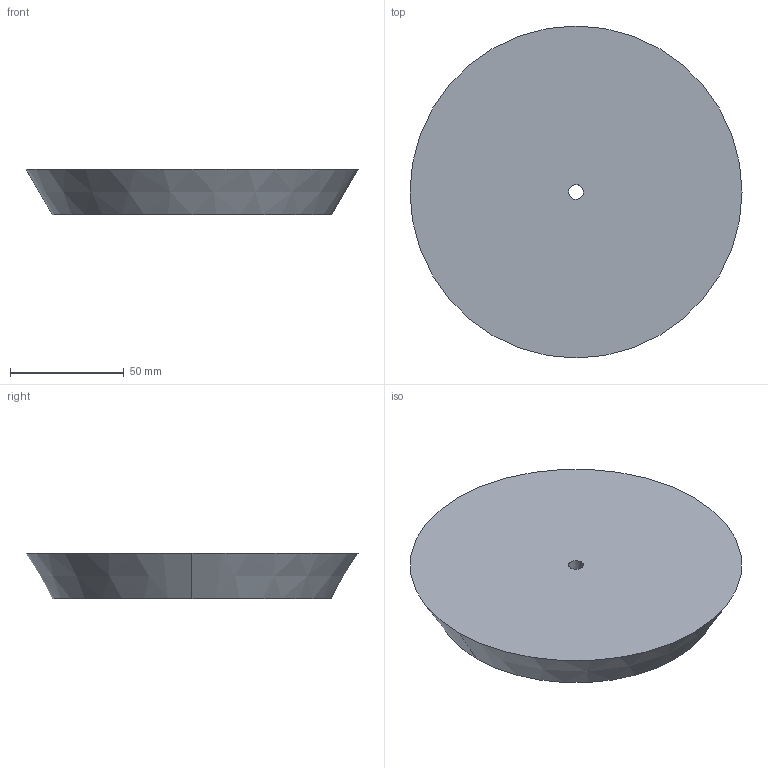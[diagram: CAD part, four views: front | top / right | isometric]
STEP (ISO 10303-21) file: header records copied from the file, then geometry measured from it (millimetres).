
FILE_DESCRIPTION(('CATIA V5 STEP Exchange'),'2;1');
FILE_NAME('C:\Users\andres.garcia\OneDrive - IQS\ASIGNATURAS\DAO\Controles\2223\c0\c1-LORENTE_David-tapon.stp','2023-02-03T08:22:05+00:00',('none'),('none'),'CATIA Version 5-6 Release 2013 SP6','CATIA V5 STEP AP203','none');
FILE_SCHEMA(('CONFIG_CONTROL_DESIGN'));
Length unit declared in the file: millimetre
Products named in the file (1): c1-LORENTE_David-tapon
Bounding box: 146 x 146 x 20 mm (x, y, z)
Volume: 283996.9 mm3; surface area: 38702.6 mm2
Topology: 1 solids, 1 shells, 6 faces, 12 edges, 8 vertices
Faces by surface type: cylinder 2, plane 2, cone 2
Entity records: 196 total; most frequent: CARTESIAN_POINT 26, ORIENTED_EDGE 24, DIRECTION 22, AXIS2_PLACEMENT_3D 14, EDGE_CURVE 12, CIRCLE 8, EDGE_LOOP 8, VERTEX_POINT 8
